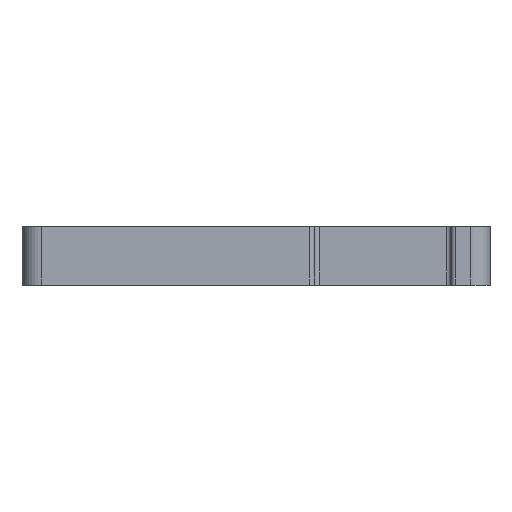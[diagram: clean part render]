
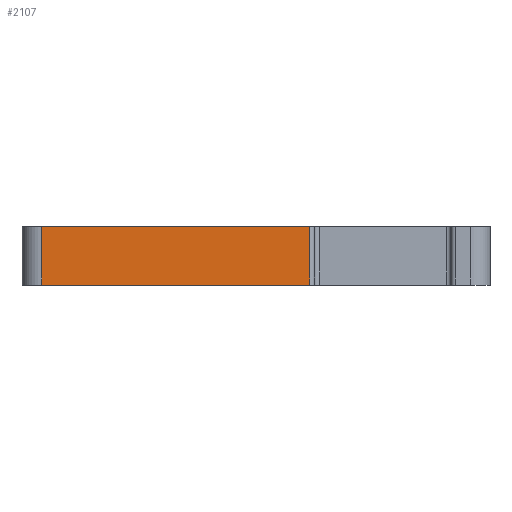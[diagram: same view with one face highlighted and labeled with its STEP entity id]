
A CAD part, top view. The second image highlights one B-rep face of the part: STEP entity #2107.
In plain terms, the highlighted planar face has unit normal (0, 0, 1).
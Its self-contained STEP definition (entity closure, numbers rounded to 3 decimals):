
#93 = CARTESIAN_POINT ( 'NONE',  ( 0., 0., 22.5 ) ) ;
#156 = CARTESIAN_POINT ( 'NONE',  ( -44., -12., 22.5 ) ) ;
#339 = CARTESIAN_POINT ( 'NONE',  ( 11., -12., 22.5 ) ) ;
#365 = CARTESIAN_POINT ( 'NONE',  ( 0., -12., 22.5 ) ) ;
#471 = CARTESIAN_POINT ( 'NONE',  ( 11., 0., 22.5 ) ) ;
#510 = DIRECTION ( 'NONE',  ( 0., 1., 0. ) ) ;
#574 = LINE ( 'NONE', #762, #995 ) ;
#598 = CARTESIAN_POINT ( 'NONE',  ( 0., -12., 22.5 ) ) ;
#636 = DIRECTION ( 'NONE',  ( 1., 0., 0. ) ) ;
#749 = ORIENTED_EDGE ( 'NONE', *, *, #1370, .F. ) ;
#762 = CARTESIAN_POINT ( 'NONE',  ( -44., -12., 22.5 ) ) ;
#809 = PLANE ( 'NONE',  #2148 ) ;
#868 = ORIENTED_EDGE ( 'NONE', *, *, #2019, .T. ) ;
#878 = VERTEX_POINT ( 'NONE', #339 ) ;
#923 = VECTOR ( 'NONE', #636, 1000. ) ;
#955 = ORIENTED_EDGE ( 'NONE', *, *, #1284, .F. ) ;
#995 = VECTOR ( 'NONE', #510, 1000. ) ;
#1051 = EDGE_LOOP ( 'NONE', ( #868, #2630, #749, #955 ) ) ;
#1154 = CARTESIAN_POINT ( 'NONE',  ( -44., 0., 22.5 ) ) ;
#1284 = EDGE_CURVE ( 'NONE', #1415, #1791, #574, .T. ) ;
#1303 = LINE ( 'NONE', #365, #923 ) ;
#1344 = LINE ( 'NONE', #471, #1456 ) ;
#1370 = EDGE_CURVE ( 'NONE', #1791, #2170, #1458, .T. ) ;
#1415 = VERTEX_POINT ( 'NONE', #156 ) ;
#1456 = VECTOR ( 'NONE', #2548, 1000. ) ;
#1458 = LINE ( 'NONE', #93, #2418 ) ;
#1791 = VERTEX_POINT ( 'NONE', #1154 ) ;
#1866 = CARTESIAN_POINT ( 'NONE',  ( 11., 0., 22.5 ) ) ;
#2019 = EDGE_CURVE ( 'NONE', #1415, #878, #1303, .T. ) ;
#2107 = ADVANCED_FACE ( 'NONE', ( #2883 ), #809, .T. ) ;
#2141 = EDGE_CURVE ( 'NONE', #878, #2170, #1344, .T. ) ;
#2148 = AXIS2_PLACEMENT_3D ( 'NONE', #598, #2225, #2945 ) ;
#2169 = DIRECTION ( 'NONE',  ( 1., 0., 0. ) ) ;
#2170 = VERTEX_POINT ( 'NONE', #1866 ) ;
#2225 = DIRECTION ( 'NONE',  ( 0., 0., 1. ) ) ;
#2418 = VECTOR ( 'NONE', #2169, 1000. ) ;
#2548 = DIRECTION ( 'NONE',  ( 0., 1., 0. ) ) ;
#2630 = ORIENTED_EDGE ( 'NONE', *, *, #2141, .T. ) ;
#2883 = FACE_OUTER_BOUND ( 'NONE', #1051, .T. ) ;
#2945 = DIRECTION ( 'NONE',  ( 1., 0., 0. ) ) ;
